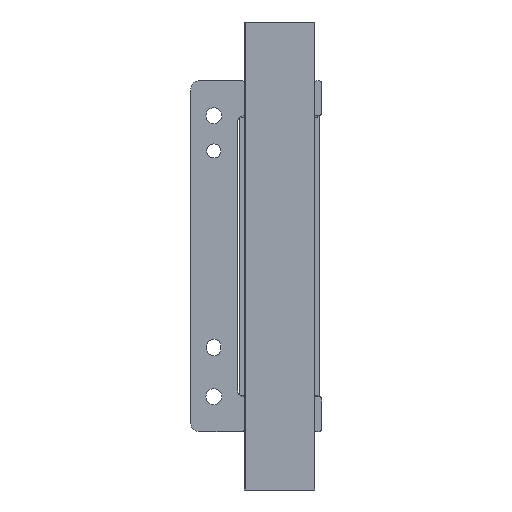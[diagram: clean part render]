
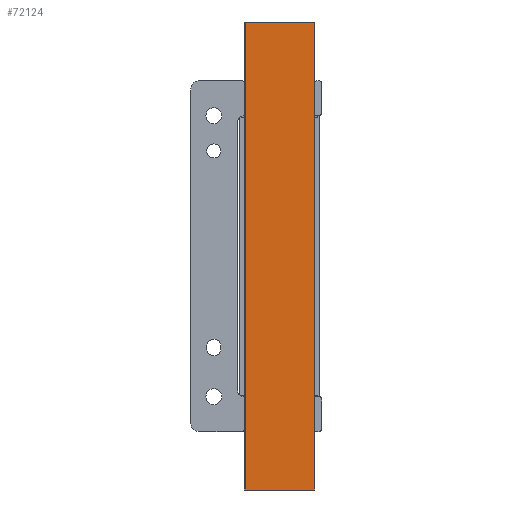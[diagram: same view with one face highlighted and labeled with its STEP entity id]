
A CAD part, front view. The second image highlights one B-rep face of the part: STEP entity #72124.
In plain terms, the highlighted planar face has unit normal (0, -1, 0).
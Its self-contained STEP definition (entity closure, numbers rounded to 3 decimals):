
#4921 = CARTESIAN_POINT ( 'NONE',  ( 26.42, -1.84, -49.95 ) ) ;
#5137 = EDGE_CURVE ( 'NONE', #14654, #73329, #34512, .T. ) ;
#5902 = DIRECTION ( 'NONE',  ( 0., 0., 1. ) ) ;
#9519 = VECTOR ( 'NONE', #17730, 1000. ) ;
#10309 = ORIENTED_EDGE ( 'NONE', *, *, #51293, .F. ) ;
#10675 = AXIS2_PLACEMENT_3D ( 'NONE', #38493, #67615, #39588 ) ;
#14654 = VERTEX_POINT ( 'NONE', #71525 ) ;
#17730 = DIRECTION ( 'NONE',  ( 0., 0., 1. ) ) ;
#17827 = LINE ( 'NONE', #68959, #27718 ) ;
#19316 = VECTOR ( 'NONE', #70777, 1000. ) ;
#20861 = CARTESIAN_POINT ( 'NONE',  ( 26.42, -1.84, -49.95 ) ) ;
#20925 = VERTEX_POINT ( 'NONE', #20861 ) ;
#21015 = EDGE_CURVE ( 'NONE', #20925, #32681, #17827, .T. ) ;
#22600 = CARTESIAN_POINT ( 'NONE',  ( 11.66, -1.84, -49.95 ) ) ;
#25234 = LINE ( 'NONE', #47988, #19316 ) ;
#27718 = VECTOR ( 'NONE', #5902, 1000. ) ;
#28037 = PLANE ( 'NONE',  #10675 ) ;
#28377 = DIRECTION ( 'NONE',  ( -1., 0., 0. ) ) ;
#32681 = VERTEX_POINT ( 'NONE', #62573 ) ;
#34136 = ORIENTED_EDGE ( 'NONE', *, *, #5137, .F. ) ;
#34512 = LINE ( 'NONE', #22600, #9519 ) ;
#38493 = CARTESIAN_POINT ( 'NONE',  ( 26.42, -1.84, -49.95 ) ) ;
#39588 = DIRECTION ( 'NONE',  ( 1., 0., 0. ) ) ;
#43406 = VECTOR ( 'NONE', #28377, 1000. ) ;
#47988 = CARTESIAN_POINT ( 'NONE',  ( 11.66, -1.84, 50. ) ) ;
#49018 = EDGE_LOOP ( 'NONE', ( #65661, #66649, #34136, #10309 ) ) ;
#51227 = CARTESIAN_POINT ( 'NONE',  ( 11.66, -1.84, 50. ) ) ;
#51293 = EDGE_CURVE ( 'NONE', #20925, #14654, #56752, .T. ) ;
#56752 = LINE ( 'NONE', #4921, #43406 ) ;
#62573 = CARTESIAN_POINT ( 'NONE',  ( 26.42, -1.84, 50. ) ) ;
#63582 = EDGE_CURVE ( 'NONE', #32681, #73329, #25234, .T. ) ;
#65661 = ORIENTED_EDGE ( 'NONE', *, *, #21015, .T. ) ;
#66649 = ORIENTED_EDGE ( 'NONE', *, *, #63582, .T. ) ;
#67615 = DIRECTION ( 'NONE',  ( 0., 1., 0. ) ) ;
#68959 = CARTESIAN_POINT ( 'NONE',  ( 26.42, -1.84, -49.95 ) ) ;
#70777 = DIRECTION ( 'NONE',  ( -1., 0., 0. ) ) ;
#71525 = CARTESIAN_POINT ( 'NONE',  ( 11.66, -1.84, -49.95 ) ) ;
#72124 = ADVANCED_FACE ( 'NONE', ( #72851 ), #28037, .F. ) ;
#72851 = FACE_OUTER_BOUND ( 'NONE', #49018, .T. ) ;
#73329 = VERTEX_POINT ( 'NONE', #51227 ) ;
